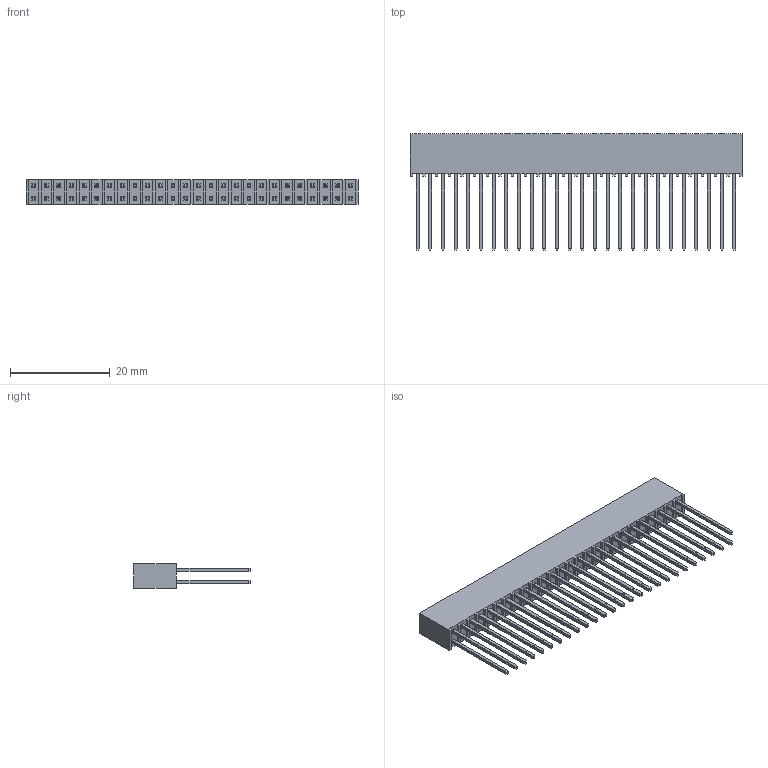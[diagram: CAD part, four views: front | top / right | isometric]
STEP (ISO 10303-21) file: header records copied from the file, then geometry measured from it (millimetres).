
FILE_DESCRIPTION(/* description */ ('STEP AP214'),/* implementation_level */ '2;1');
FILE_NAME(/* name */ 'SSQ-126-04-G-D',/* time_stamp */ '2025-01-12T13:04:37+01:00',/* author */ ('License CC BY-ND 4.0'),/* organization */ ('CADENAS'),/* preprocessor_version */ 'ST-DEVELOPER v19.3',/* originating_system */ 'PARTsolutions',/* authorisation */ ' ');
FILE_SCHEMA (('AUTOMOTIVE_DESIGN {1 0 10303 214 3 1 1}'));
Length unit declared in the file: inch
Products named in the file (3): SSQ-126-04-G-D; T1SSQ-126-04-G-D; P2SSQ-126-04-G-D
Assembly tree (2 placements, depth 2):
  SSQ-126-04-G-D
    T1SSQ-126-04-G-D
    P2SSQ-126-04-G-D
Bounding box: 66.55 x 23.34 x 4.95 mm (x, y, z)
Volume: 2772.2 mm3; surface area: 5761.3 mm2
Topology: 2 solids, 2 shells, 728 faces, 2016 edges, 1344 vertices
Faces by surface type: plane 728
Entity records: 23026 total; most frequent: CARTESIAN_POINT 4091, ORIENTED_EDGE 4032, DIRECTION 3478, EDGE_CURVE 2016, LINE 2016, VECTOR 2016, VERTEX_POINT 1344, EDGE_LOOP 884
